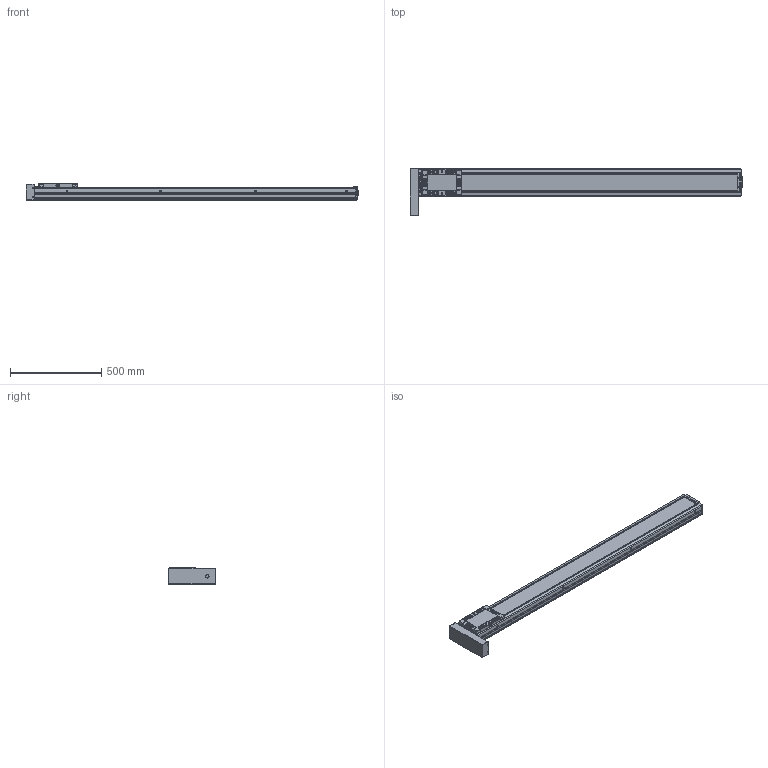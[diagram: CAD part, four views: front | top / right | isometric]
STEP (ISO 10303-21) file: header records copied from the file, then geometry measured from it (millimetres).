
FILE_DESCRIPTION(('STEP AP214'),'1');
FILE_NAME('Z:/Web/3D/SAN150/2013.04 (STP.)/SAN150ㅁㅁ-1500PR.stp','2013-05-07T08:24:04',(' '),(' '),'Spatial InterOp 3D',' ',' ');
FILE_SCHEMA(('automotive_design'));
Length unit declared in the file: millimetre
Products named in the file (44): BHCS M3.0 x 6.0; P; SLBL-SAN150; SLCV-SAN150; FHCS M4.0 x 8.0; BHCS M4.0 x 10.0; SFX-SAN150; RRCV-SAN150; FRBL-SAN150; Spacer; RN15; FRCV-SAN150; Screw 20; BASE-SAN150-000L ; SUS COVER; 스크루 : Round - M5.0 x 6.0
Bounding box: 1820 x 260.73 x 90 mm (x, y, z)
Volume: 10039454.4 mm3; surface area: 1748689.1 mm2
Topology: 44 solids, 44 shells, 2433 faces, 6243 edges, 3956 vertices
Faces by surface type: plane 1097, cylinder 897, cone 338, sphere 68, bspline 21, torus 12
Entity records: 96988 total; most frequent: CARTESIAN_POINT 16422, DIRECTION 13296, ORIENTED_EDGE 12174, EDGE_CURVE 6087, AXIS2_PLACEMENT_3D 4881, VERTEX_POINT 3956, LINE 3534, VECTOR 3534
